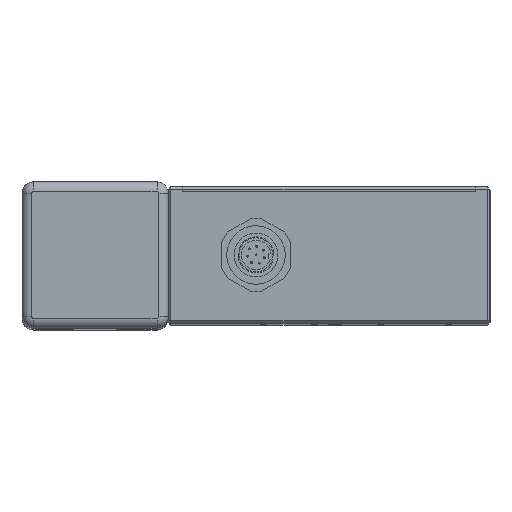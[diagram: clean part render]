
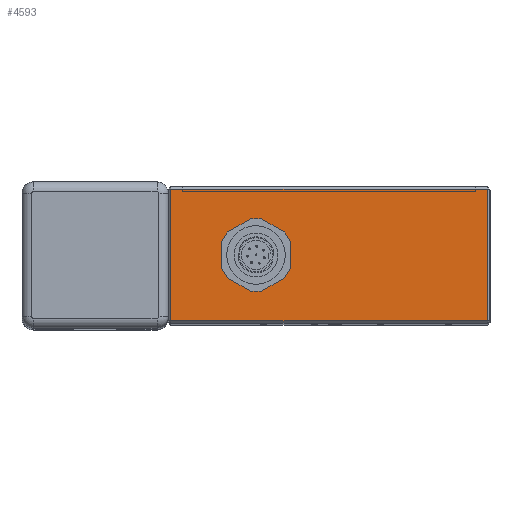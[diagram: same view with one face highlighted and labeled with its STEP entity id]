
A CAD part, top view. The second image highlights one B-rep face of the part: STEP entity #4593.
In plain terms, the highlighted planar face has unit normal (0, 0, 1) as drawn and (-1, 0, 0) by its records, which use the part's own axes.
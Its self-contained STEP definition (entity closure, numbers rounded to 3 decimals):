
#75 = EDGE_LOOP ( 'NONE', ( #4161, #4103, #4095, #4065 ) ) ;
#4065 = ORIENTED_EDGE ( 'NONE', *, *, #21555, .T. ) ;
#4095 = ORIENTED_EDGE ( 'NONE', *, *, #21569, .T. ) ;
#4103 = ORIENTED_EDGE ( 'NONE', *, *, #21415, .T. ) ;
#4111 = ORIENTED_EDGE ( 'NONE', *, *, #22567, .F. ) ;
#4136 = ORIENTED_EDGE ( 'NONE', *, *, #21553, .F. ) ;
#4161 = ORIENTED_EDGE ( 'NONE', *, *, #21551, .T. ) ;
#4593 = ADVANCED_FACE ( 'NONE', ( #6285, #6290 ), #17252, .F. ) ;
#6285 = FACE_OUTER_BOUND ( 'NONE', #75, .T. ) ;
#6290 = FACE_BOUND ( 'NONE', #21272, .T. ) ;
#6414 = AXIS2_PLACEMENT_3D ( 'NONE', #17506, #17082, #17381 ) ;
#6697 = AXIS2_PLACEMENT_3D ( 'NONE', #10481, #10482, #10483 ) ;
#7539 = CARTESIAN_POINT ( 'NONE',  ( 0., 65.5, 27.5 ) ) ;
#7599 = CARTESIAN_POINT ( 'NONE',  ( 0., 65.5, 0.5 ) ) ;
#7805 = CARTESIAN_POINT ( 'NONE',  ( 0., 48., 20. ) ) ;
#7844 = CARTESIAN_POINT ( 'NONE',  ( 0., 0.5, 27.5 ) ) ;
#7848 = CARTESIAN_POINT ( 'NONE',  ( 0., 0.5, 0.5 ) ) ;
#7877 = CARTESIAN_POINT ( 'NONE',  ( 0., 48., 8. ) ) ;
#8856 = LINE ( 'NONE', #10037, #8859 ) ;
#8859 = VECTOR ( 'NONE', #10039, 1000. ) ;
#9083 = LINE ( 'NONE', #10471, #9087 ) ;
#9087 = VECTOR ( 'NONE', #10477, 1000. ) ;
#9088 = CIRCLE ( 'NONE', #6697, 6. ) ;
#9091 = LINE ( 'NONE', #10484, #9094 ) ;
#9094 = VECTOR ( 'NONE', #10485, 1000. ) ;
#9114 = LINE ( 'NONE', #10513, #9116 ) ;
#9116 = VECTOR ( 'NONE', #10514, 1000. ) ;
#10037 = CARTESIAN_POINT ( 'NONE',  ( 0., 0., 0.5 ) ) ;
#10039 = DIRECTION ( 'NONE',  ( 0., -1., 0. ) ) ;
#10471 = CARTESIAN_POINT ( 'NONE',  ( 0., 65.5, 28. ) ) ;
#10477 = DIRECTION ( 'NONE',  ( 0., 0., -1. ) ) ;
#10481 = CARTESIAN_POINT ( 'NONE',  ( 0., 48., 14. ) ) ;
#10482 = DIRECTION ( 'NONE',  ( -1., 0., 0. ) ) ;
#10483 = DIRECTION ( 'NONE',  ( 0., 0., 1. ) ) ;
#10484 = CARTESIAN_POINT ( 'NONE',  ( 0., 0., 27.5 ) ) ;
#10485 = DIRECTION ( 'NONE',  ( 0., 1., 0. ) ) ;
#10513 = CARTESIAN_POINT ( 'NONE',  ( 0., 0.5, 28. ) ) ;
#10514 = DIRECTION ( 'NONE',  ( 0., 0., 1. ) ) ;
#11995 = CIRCLE ( 'NONE', #13677, 6. ) ;
#12891 = VERTEX_POINT ( 'NONE', #7539 ) ;
#13052 = VERTEX_POINT ( 'NONE', #7599 ) ;
#13579 = CARTESIAN_POINT ( 'NONE',  ( 0., 48., 14. ) ) ;
#13580 = DIRECTION ( 'NONE',  ( -1., 0., 0. ) ) ;
#13581 = DIRECTION ( 'NONE',  ( 0., 0., 1. ) ) ;
#13677 = AXIS2_PLACEMENT_3D ( 'NONE', #13579, #13580, #13581 ) ;
#17082 = DIRECTION ( 'NONE',  ( 1., 0., 0. ) ) ;
#17252 = PLANE ( 'NONE',  #6414 ) ;
#17381 = DIRECTION ( 'NONE',  ( 0., 0., -1. ) ) ;
#17506 = CARTESIAN_POINT ( 'NONE',  ( 0., 0., 28. ) ) ;
#18157 = VERTEX_POINT ( 'NONE', #7805 ) ;
#18193 = VERTEX_POINT ( 'NONE', #7844 ) ;
#18199 = VERTEX_POINT ( 'NONE', #7848 ) ;
#18235 = VERTEX_POINT ( 'NONE', #7877 ) ;
#21272 = EDGE_LOOP ( 'NONE', ( #4136, #4111 ) ) ;
#21415 = EDGE_CURVE ( 'NONE', #13052, #18199, #8856, .T. ) ;
#21551 = EDGE_CURVE ( 'NONE', #12891, #13052, #9083, .T. ) ;
#21553 = EDGE_CURVE ( 'NONE', #18157, #18235, #9088, .T. ) ;
#21555 = EDGE_CURVE ( 'NONE', #18193, #12891, #9091, .T. ) ;
#21569 = EDGE_CURVE ( 'NONE', #18199, #18193, #9114, .T. ) ;
#22567 = EDGE_CURVE ( 'NONE', #18235, #18157, #11995, .T. ) ;
